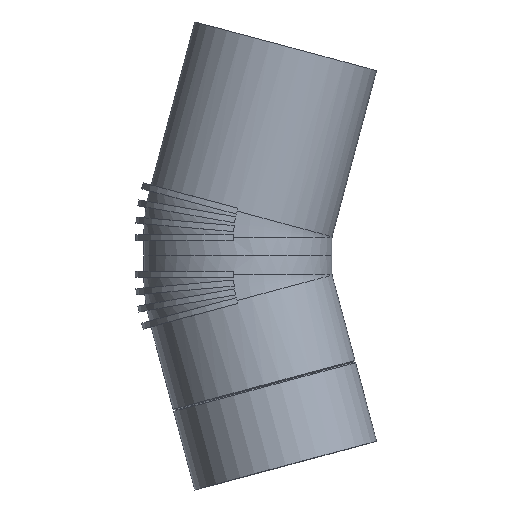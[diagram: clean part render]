
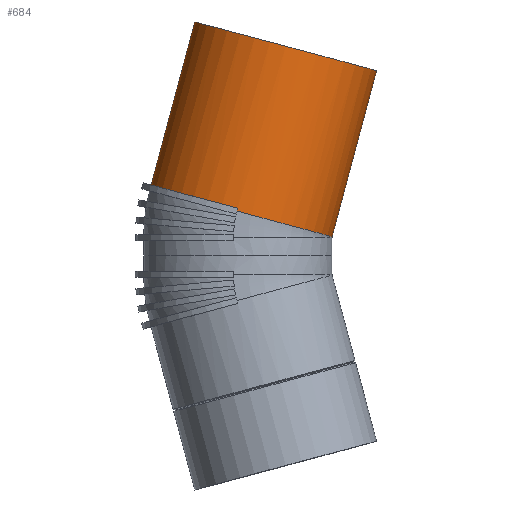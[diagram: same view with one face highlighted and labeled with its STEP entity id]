
A CAD part, top view. The second image highlights one B-rep face of the part: STEP entity #684.
In plain terms, the highlighted cylindrical face has radius 80 mm (diameter 160 mm), a full revolution.
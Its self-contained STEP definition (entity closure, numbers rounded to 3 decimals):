
#34=FACE_BOUND($,#143,.T.);
#91=FACE_OUTER_BOUND($,#142,.T.);
#142=EDGE_LOOP($,(#508,#509,#510,#511));
#143=EDGE_LOOP($,(#512));
#222=CIRCLE($,#717,80.);
#228=CIRCLE($,#731,80.);
#237=CIRCLE($,#749,80.);
#259=LINE($,#985,#267);
#260=LINE($,#989,#268);
#267=VECTOR($,#803,2.573);
#268=VECTOR($,#806,2.573);
#275=VERTEX_POINT($,#983);
#276=VERTEX_POINT($,#984);
#277=VERTEX_POINT($,#986);
#278=VERTEX_POINT($,#988);
#306=VERTEX_POINT($,#1501);
#342=EDGE_CURVE($,#275,#276,#259,.T.);
#344=EDGE_CURVE($,#278,#277,#260,.T.);
#348=EDGE_CURVE($,#277,#275,#222,.T.);
#372=EDGE_CURVE($,#278,#276,#228,.T.);
#383=EDGE_CURVE($,#306,#306,#237,.T.);
#508=ORIENTED_EDGE($,*,*,#342,.T.);
#509=ORIENTED_EDGE($,*,*,#372,.F.);
#510=ORIENTED_EDGE($,*,*,#344,.T.);
#511=ORIENTED_EDGE($,*,*,#348,.T.);
#512=ORIENTED_EDGE($,*,*,#383,.T.);
#610=CYLINDRICAL_SURFACE($,#750,80.);
#684=ADVANCED_FACE($,(#91,#34),#610,.T.);
#717=AXIS2_PLACEMENT_3D($,#1002,#811,#812);
#731=AXIS2_PLACEMENT_3D($,#1474,#839,#840);
#749=AXIS2_PLACEMENT_3D($,#1502,#877,#878);
#750=AXIS2_PLACEMENT_3D($,#1503,#879,#880);
#803=DIRECTION($,(-0.259,-0.966,0.));
#806=DIRECTION($,(0.259,0.966,0.));
#811=DIRECTION('center_axis',(0.259,0.966,0.));
#812=DIRECTION('ref_axis',(0.966,-0.259,0.));
#839=DIRECTION('center_axis',(-0.259,-0.966,0.));
#840=DIRECTION('ref_axis',(0.966,-0.259,0.));
#877=DIRECTION('center_axis',(-0.259,-0.966,0.));
#878=DIRECTION('ref_axis',(0.966,-0.259,0.));
#879=DIRECTION('center_axis',(-0.259,-0.966,0.));
#880=DIRECTION('ref_axis',(0.966,-0.259,0.));
#983=CARTESIAN_POINT('',(-0.056,40.491,79.916));
#984=CARTESIAN_POINT('',(-0.722,38.006,79.916));
#985=CARTESIAN_POINT($,(-0.722,38.006,79.916));
#986=CARTESIAN_POINT('',(-0.056,40.491,-79.916));
#988=CARTESIAN_POINT('',(-0.722,38.006,-79.916));
#989=CARTESIAN_POINT($,(-0.722,38.006,-79.916));
#1002=CARTESIAN_POINT('Origin',(3.494,39.54,0.));
#1474=CARTESIAN_POINT('Origin',(2.828,37.055,0.));
#1501=CARTESIAN_POINT('',(117.909,157.445,0.));
#1502=CARTESIAN_POINT('Origin',(40.635,178.15,0.));
#1503=CARTESIAN_POINT('Origin',(21.731,107.603,0.));
